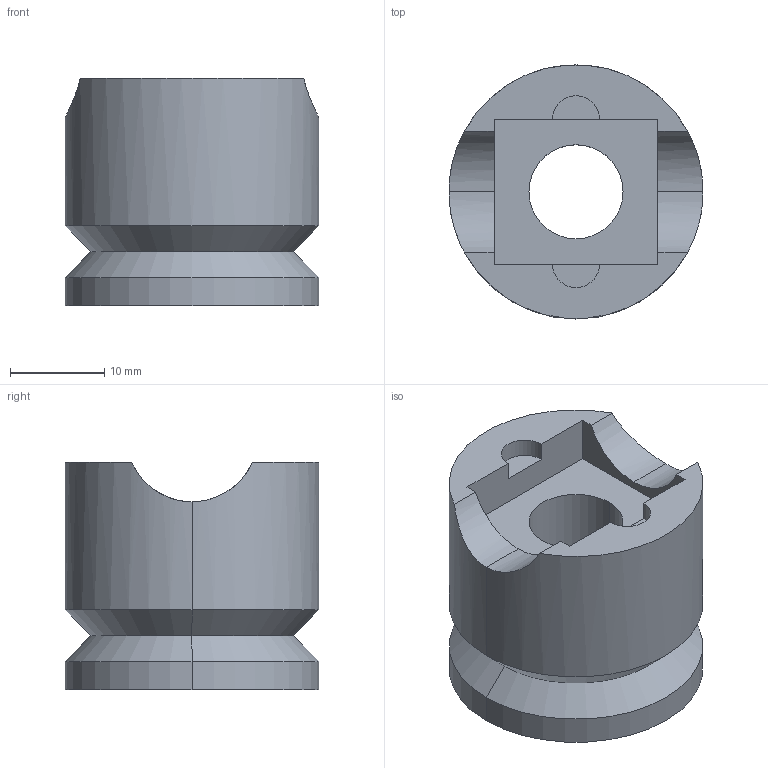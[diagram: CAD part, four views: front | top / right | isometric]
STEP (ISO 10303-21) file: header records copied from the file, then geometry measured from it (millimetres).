
FILE_DESCRIPTION (( 'STEP AP214' ), '1' );
FILE_NAME ('2024-27 - CUVETTE FIX.STEP', '2024-07-04T13:20:25', ( '' ), ( '' ), 'SwSTEP 2.0', 'SolidWorks 2024', '' );
FILE_SCHEMA (( 'AUTOMOTIVE_DESIGN' ));
Length unit declared in the file: millimetre
Products named in the file (1): 2024-27 - CUVETTE FIX
Bounding box: 27 x 27 x 24.19 mm (x, y, z)
Volume: 8419.5 mm3; surface area: 4216.8 mm2
Topology: 1 solids, 1 shells, 41 faces, 99 edges, 62 vertices
Faces by surface type: cylinder 23, plane 12, cone 4, sphere 2
Entity records: 1378 total; most frequent: CARTESIAN_POINT 387, DIRECTION 209, ORIENTED_EDGE 194, EDGE_CURVE 97, AXIS2_PLACEMENT_3D 80, VERTEX_POINT 62, LINE 49, VECTOR 49
